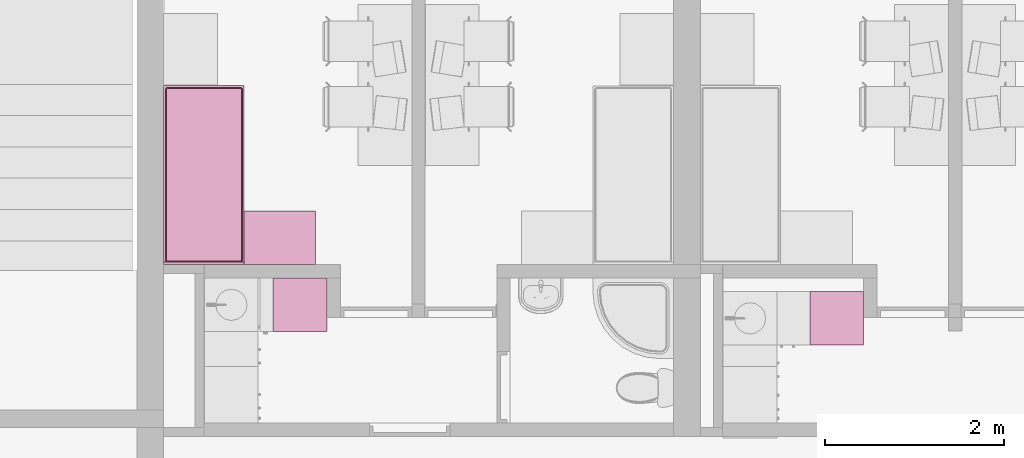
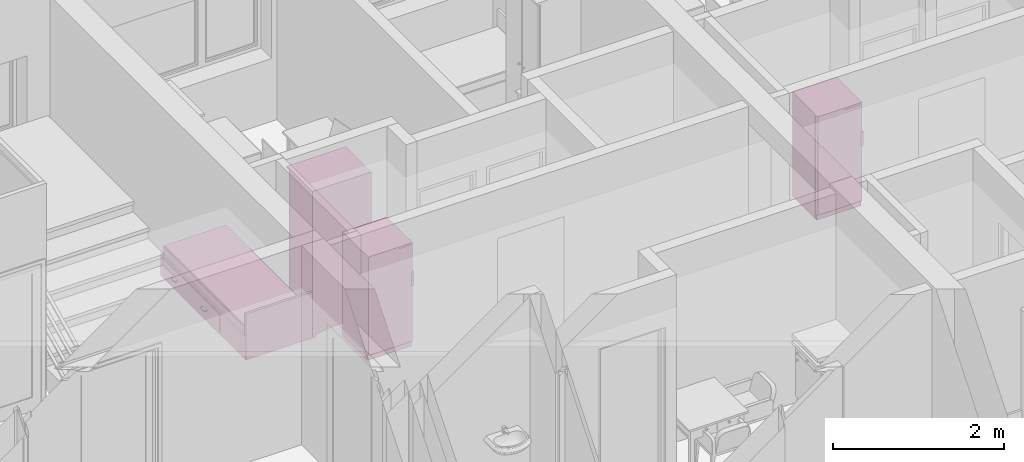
# One storey, part 127 of 165: 4 furnishings.
"""IFC2X3 building model written with IfcOpenShell, lengths in millimetres."""

import ifcopenshell
import ifcopenshell.guid

model = None  # the IFC model being written
_history = None  # IfcOwnerHistory: only IFC2X3 demands one
_inside = {}  # id of a spatial element -> (the spatial element, [elements in it])
_under = {}  # id of a project, library or spatial element -> (it, [spatial elements below it])
_declared = {}  # id of a project -> (the project, [libraries it declares])
_typed = {}  # id of a type object -> (the type object, [elements of that type])
_made_of = {}  # id of a material, layer set ... -> (it, [elements and type objects made of it])


def new_model(schema):
    """Start an empty IFC model of exactly this schema.

    Asked for "IFC4X3", IfcOpenShell would pick the latest addendum, in which some entities
    have other attributes; the version numbers below select the first issue.
    IFC2X3 requires an IfcOwnerHistory on every rooted entity: one is made here for all.
    """
    global model, _history
    if schema == "IFC4X3":
        model = ifcopenshell.file(schema_version=(4, 3, 0, 0))
    else:
        model = ifcopenshell.file(schema=schema)
    _inside.clear()
    _under.clear()
    _declared.clear()
    _typed.clear()
    _made_of.clear()
    _history = None
    if model.schema == "IFC2X3":
        org = make("IfcOrganization", Name="unknown")
        user = make(
            "IfcPersonAndOrganization",
            ThePerson=make("IfcPerson", FamilyName="unknown"),
            TheOrganization=org,
        )
        app = make(
            "IfcApplication",
            ApplicationDeveloper=org,
            Version="unknown",
            ApplicationFullName="unknown",
            ApplicationIdentifier="unknown",
        )
        _history = make(
            "IfcOwnerHistory",
            OwningUser=user,
            OwningApplication=app,
            ChangeAction="ADDED",
            CreationDate=0,
        )
    return model


def make(cls, **values):
    """One entity of the class cls with the attributes given. An attribute that is None is left unset."""
    return model.create_entity(
        cls, **{name: value for name, value in values.items() if value is not None}
    )


def entity(cls, *values):
    """Any entity or typed value of the class cls, its attributes in the order of the schema. None: left unset."""
    e = model.create_entity(cls)
    for i, value in enumerate(values):
        if value is not None:
            e[i] = value
    return e


def rooted(cls, **values):
    """An entity with a GlobalId (a new one), such as an element, a storey or a relation."""
    return make(cls, GlobalId=ifcopenshell.guid.new(), OwnerHistory=_history, **values)


def si_unit(unit_type, name, prefix=None):
    """IfcSIUnit, for example si_unit("LENGTHUNIT", "METRE", prefix="MILLI")."""
    return make("IfcSIUnit", UnitType=unit_type, Prefix=prefix, Name=name)


def converted_unit(unit_type, name, factor, base, dimensions=None, offset=None):
    """IfcConversionBasedUnit, such as the inch: factor (a typed value) times the base unit."""
    return make(
        "IfcConversionBasedUnit"
        if offset is None
        else "IfcConversionBasedUnitWithOffset",
        ConversionOffset=offset,
        Dimensions=None
        if dimensions is None
        else entity("IfcDimensionalExponents", *dimensions),
        UnitType=unit_type,
        Name=name,
        ConversionFactor=make(
            "IfcMeasureWithUnit", ValueComponent=factor, UnitComponent=base
        ),
    )


def money_unit(currency):
    """IfcMonetaryUnit."""
    return make("IfcMonetaryUnit", Currency=currency)


def assignment(units):
    """IfcUnitAssignment: the units of a project."""
    return None if units is None else make("IfcUnitAssignment", Units=units)


def point(xyz):
    """IfcCartesianPoint."""
    return None if xyz is None else make("IfcCartesianPoint", Coordinates=xyz)


def direction(xyz):
    """IfcDirection."""
    return None if xyz is None else make("IfcDirection", DirectionRatios=xyz)


def frame(location, z_axis=None, x_axis=None):
    """IfcAxis2Placement3D, a coordinate frame: its origin and axes. An axis left out is left unset."""
    return make(
        "IfcAxis2Placement3D",
        Location=point(location),
        Axis=direction(z_axis),
        RefDirection=direction(x_axis),
    )


def origin_with_axes():
    """The frame at (0, 0, 0) with the z axis (0, 0, 1) and the x axis (1, 0, 0) written out."""
    return frame((0.0, 0.0, 0.0), z_axis=(0.0, 0.0, 1.0), x_axis=(1.0, 0.0, 0.0))


def place(relative_to, where):
    """IfcLocalPlacement: puts the frame where relative to a parent placement (None: the world)."""
    return make(
        "IfcLocalPlacement", PlacementRelTo=relative_to, RelativePlacement=where
    )


def context(
    kind, dimensions, precision=None, world=None, true_north=None, identifier=None
):
    """IfcGeometricRepresentationContext, for example the 3D "Model" context."""
    return make(
        "IfcGeometricRepresentationContext",
        ContextIdentifier=identifier,
        ContextType=kind,
        CoordinateSpaceDimension=dimensions,
        Precision=precision,
        WorldCoordinateSystem=world,
        TrueNorth=true_north,
    )


def subcontext(parent, identifier, kind, view, scale=None):
    """IfcGeometricRepresentationSubContext, for example "Body" below "Model"."""
    return make(
        "IfcGeometricRepresentationSubContext",
        ContextIdentifier=identifier,
        ContextType=kind,
        ParentContext=parent,
        TargetScale=scale,
        TargetView=view,
    )


def project(units=None, contexts=None):
    """IfcProject with its units and contexts."""
    return rooted(
        "IfcProject",
        Name="project",
        RepresentationContexts=contexts,
        UnitsInContext=assignment(units),
    )


def spatial(cls, under=None, at=None, **own):
    """A site, building, storey or space (cls), placed at a placement, below another one or the project."""
    s = rooted(cls, ObjectPlacement=at, **own)
    if under is not None:
        _under.setdefault(under.id(), (under, []))[1].append(s)
    return s


def faces_of(points, faces, orient=None, outer=None):
    """IfcFace entities. A face is a list of loops; a loop is a list of indices into points, from 0.

    orient and outer hold one flag for each loop. By default every Orientation is true, the
    first loop of a face is its IfcFaceOuterBound and the others are IfcFaceBound.
    """
    made = []
    for i, loops in enumerate(faces):
        bounds = []
        for j, loop in enumerate(loops):
            is_outer = j == 0 if outer is None else outer[i][j]
            bounds.append(
                make(
                    "IfcFaceOuterBound" if is_outer else "IfcFaceBound",
                    Bound=make("IfcPolyLoop", Polygon=[points[k] for k in loop]),
                    Orientation=True if orient is None else orient[i][j],
                )
            )
        made.append(make("IfcFace", Bounds=bounds))
    return made


def open_shell(faces, orient=None, outer=None):
    """The faces of one IfcOpenShell. surface_model builds it on its shared points."""
    return ("IfcOpenShell", faces, orient, outer)


def faceted_brep(points, faces, orient=None, outer=None, voids=None):
    """IfcFacetedBrep: a solid bounded by flat faces; with voids (closed shells), ...WithVoids."""
    shared = [point(p) for p in points]
    hull = make("IfcClosedShell", CfsFaces=faces_of(shared, faces, orient, outer))
    if voids is None:
        return make("IfcFacetedBrep", Outer=hull)
    return make(
        "IfcFacetedBrepWithVoids",
        Outer=hull,
        Voids=[
            make(cls, CfsFaces=faces_of(shared, fs, o, b)) for cls, fs, o, b in voids
        ],
    )


def surface_model(cls, points, shells):
    """IfcFaceBasedSurfaceModel or IfcShellBasedSurfaceModel (cls): surfaces that need not close."""
    shared = [point(p) for p in points]
    made = [make(c, CfsFaces=faces_of(shared, fs, o, b)) for c, fs, o, b in shells]
    if cls == "IfcFaceBasedSurfaceModel":
        return make(cls, FbsmFaces=made)
    return make(cls, SbsmBoundary=made)


def shape(context_of_items, identifier, shape_type, items):
    """IfcShapeRepresentation: the items that make up one representation, for example the "Body"."""
    return make(
        "IfcShapeRepresentation",
        ContextOfItems=context_of_items,
        RepresentationIdentifier=identifier,
        RepresentationType=shape_type,
        Items=items,
    )


def source(mapping_origin, context_of_items, identifier, shape_type, items):
    """IfcRepresentationMap: a shape defined once, which mapped items show again and again."""
    return make(
        "IfcRepresentationMap",
        MappingOrigin=mapping_origin,
        MappedRepresentation=shape(context_of_items, identifier, shape_type, items),
    )


def transform(
    local_origin,
    x_axis=None,
    y_axis=None,
    z_axis=None,
    scale=None,
    scale2=None,
    scale3=None,
    uniform=True,
):
    """IfcCartesianTransformationOperator3D, or its non-uniform kind. x_axis, y_axis, z_axis: its Axis1, 2, 3."""
    if uniform:
        return make(
            "IfcCartesianTransformationOperator3D",
            Axis1=direction(x_axis),
            Axis2=direction(y_axis),
            LocalOrigin=point(local_origin),
            Scale=scale,
            Axis3=direction(z_axis),
        )
    return make(
        "IfcCartesianTransformationOperator3DnonUniform",
        Axis1=direction(x_axis),
        Axis2=direction(y_axis),
        LocalOrigin=point(local_origin),
        Scale=scale,
        Axis3=direction(z_axis),
        Scale2=scale2,
        Scale3=scale3,
    )


def mapped(mapping_source, mapping_target):
    """IfcMappedItem: shows the shape of a source again, moved by a transform."""
    return make(
        "IfcMappedItem", MappingSource=mapping_source, MappingTarget=mapping_target
    )


def material(Name=None, Category=None):
    """IfcMaterial."""
    return make("IfcMaterial", Name=Name, Category=Category)


def material_list(materials):
    """IfcMaterialList."""
    return make("IfcMaterialList", Materials=materials)


def made_of(thing, what):
    """Note that an element or type object is made of a material, layer set ...; save() writes the relation."""
    if what is not None:
        _made_of.setdefault(what.id(), (what, []))[1].append(thing)
    return thing


def type_object(cls, material=None, **own):
    """A type object (cls), such as IfcWallType, which elements share."""
    return made_of(rooted(cls, **own), material)


def element(
    cls,
    number,
    at=None,
    inside=None,
    cuts=None,
    type_object=None,
    material=None,
    context=None,
    identifier="Body",
    shape_type=None,
    held_by="IfcProductDefinitionShape",
    body=None,
    shapes=None,
    **own,
):
    """One element of the class cls, such as IfcWall. Its Tag is "e" and its number.

    at: its placement. inside: the storey or other place that contains it. cuts: it is an
    opening in that element (IfcRelVoidsElement). A single representation is given by context,
    identifier, shape_type and body (its items); several are given by shapes. held_by: the class
    of the entity that holds the representations. save() writes the other relations.
    """
    e = rooted(cls, Tag="e%d" % number, ObjectPlacement=at, **own)
    if body is not None:
        shapes = [shape(context, identifier, shape_type, body)]
    if shapes is not None:
        e.Representation = make(held_by, Representations=shapes)
    if inside is not None:
        _inside.setdefault(inside.id(), (inside, []))[1].append(e)
    if cuts is not None:
        rooted(
            "IfcRelVoidsElement", RelatingBuildingElement=cuts, RelatedOpeningElement=e
        )
    if type_object is not None:
        _typed.setdefault(type_object.id(), (type_object, []))[1].append(e)
    return made_of(e, material)


def aggregate(whole, parts):
    """IfcRelAggregates: a whole, such as a stair, and the parts it consists of."""
    return rooted("IfcRelAggregates", RelatingObject=whole, RelatedObjects=parts)


def save(model, path):
    """Write the relations noted so far, then the file.

    IfcRelAggregates (storeys below a building ...), IfcRelContainedInSpatialStructure (elements
    in a storey), IfcRelDefinesByType, IfcRelAssociatesMaterial and IfcRelDeclares: one each for
    every whole, place, type object, material and project.
    """
    for whole, parts in _under.values():
        aggregate(whole, parts)
    for where, things in _inside.values():
        rooted(
            "IfcRelContainedInSpatialStructure",
            RelatedElements=things,
            RelatingStructure=where,
        )
    for kind, things in _typed.values():
        rooted("IfcRelDefinesByType", RelatedObjects=things, RelatingType=kind)
    for what, things in _made_of.values():
        rooted("IfcRelAssociatesMaterial", RelatedObjects=things, RelatingMaterial=what)
    for by, libraries in _declared.values():
        rooted("IfcRelDeclares", RelatingContext=by, RelatedDefinitions=libraries)
    model.write(path)


model = new_model("IFC2X3")

# Units and contexts
model_context = context("Model", 3, precision=1e-05, world=origin_with_axes(), true_north=direction((0.0, 1.0)))
body_context = subcontext(model_context, "Body", "Model", "MODEL_VIEW")
ifc_project = project(units=[si_unit("LENGTHUNIT", "METRE", prefix="MILLI"), si_unit("AREAUNIT", "SQUARE_METRE"), si_unit("VOLUMEUNIT", "CUBIC_METRE"), converted_unit("PLANEANGLEUNIT", "DEGREE", entity("IfcPlaneAngleMeasure", 0.0174532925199), si_unit("PLANEANGLEUNIT", "RADIAN"), dimensions=[0, 0, 0, 0, 0, 0, 0]), si_unit("SOLIDANGLEUNIT", "STERADIAN"), money_unit("USD"), converted_unit("TIMEUNIT", "Year", entity("IfcTimeMeasure", 31556926.0), si_unit("TIMEUNIT", "SECOND"), dimensions=[0, 0, 0, 0, 0, 0, 0]), si_unit("MASSUNIT", "GRAM"), si_unit("THERMODYNAMICTEMPERATUREUNIT", "DEGREE_CELSIUS"), si_unit("LUMINOUSINTENSITYUNIT", "LUMEN")], contexts=[model_context])

# Site, building, storey
site_placement = place(None, origin_with_axes())
site = spatial("IfcSite", under=ifc_project, at=site_placement, Name="Site", CompositionType="ELEMENT")
building_placement = place(site_placement, origin_with_axes())
building = spatial("IfcBuilding", under=site, at=building_placement, Name="Building", CompositionType="ELEMENT")
storey_placement = place(building_placement, frame((0.0, 0.0, 6300.0), z_axis=(0.0, 0.0, 1.0), x_axis=(1.0, 0.0, 0.0)))
storey = spatial("IfcBuildingStorey", under=building, at=storey_placement, Name="4KORRUS", CompositionType="ELEMENT", Elevation=6300.0)

# Furnishings
ifc_material = material(Name="Background")
ifc_material_list = material_list([ifc_material])
furnishing_element_type_1 = type_object("IfcFurnishingElementType", Name="Bed 19")
shared_shape_1 = source(origin_with_axes(), body_context, "Body", "Brep", [
    faceted_brep([(900.0, 1970.0, 0.0), (0.0, 1970.0, 0.0), (0.0, 2000.0, 0.0), (900.0, 2000.0, 0.0), (900.0, 1970.0, 660.0), (0.0, 1970.0, 660.0), (0.0, 2000.0, 660.0), (900.0, 2000.0, 660.0)], [[[0, 1, 2, 3]], [[1, 0, 4, 5]], [[2, 1, 5, 6]], [[3, 2, 6, 7]], [[0, 3, 7, 4]], [[5, 4, 7, 6]]]),
    faceted_brep([(900.0, 0.0, 0.0), (0.0, 0.0, 0.0), (0.0, 1970.0, 0.0), (900.0, 1970.0, 0.0), (900.0, 0.0, 320.0), (0.0, 0.0, 320.0), (0.0, 1970.0, 320.0), (900.0, 1970.0, 320.0)], [[[0, 1, 2, 3]], [[1, 0, 4, 5]], [[2, 1, 5, 6]], [[3, 2, 6, 7]], [[0, 3, 7, 4]], [[5, 4, 7, 6]]]),
    faceted_brep([(905.0, 10.0, 30.0), (900.0, 10.0, 30.0), (900.0, 695.0, 30.0), (905.0, 695.0, 30.0), (905.0, 10.0, 290.0), (900.0, 10.0, 290.0), (900.0, 695.0, 290.0), (905.0, 695.0, 290.0)], [[[0, 1, 2, 3]], [[1, 0, 4, 5]], [[2, 1, 5, 6]], [[3, 2, 6, 7]], [[0, 3, 7, 4]], [[5, 4, 7, 6]]]),
    faceted_brep([(935.0, 307.5, 150.0), (905.0, 307.5, 150.0), (905.0, 397.5, 150.0), (935.0, 397.5, 150.0), (935.0, 307.5, 170.0), (905.0, 307.5, 170.0), (905.0, 397.5, 170.0), (935.0, 397.5, 170.0)], [[[0, 1, 2, 3]], [[1, 0, 4, 5]], [[2, 1, 5, 6]], [[3, 2, 6, 7]], [[0, 3, 7, 4]], [[5, 4, 7, 6]]]),
    faceted_brep([(905.0, 705.0, 30.0), (900.0, 705.0, 30.0), (900.0, 1390.0, 30.0), (905.0, 1390.0, 30.0), (905.0, 705.0, 290.0), (900.0, 705.0, 290.0), (900.0, 1390.0, 290.0), (905.0, 1390.0, 290.0)], [[[0, 1, 2, 3]], [[1, 0, 4, 5]], [[2, 1, 5, 6]], [[3, 2, 6, 7]], [[0, 3, 7, 4]], [[5, 4, 7, 6]]]),
    faceted_brep([(935.0, 1002.5, 150.0), (905.0, 1002.5, 150.0), (905.0, 1092.5, 150.0), (935.0, 1092.5, 150.0), (935.0, 1002.5, 170.0), (905.0, 1002.5, 170.0), (905.0, 1092.5, 170.0), (935.0, 1092.5, 170.0)], [[[0, 1, 2, 3]], [[1, 0, 4, 5]], [[2, 1, 5, 6]], [[3, 2, 6, 7]], [[0, 3, 7, 4]], [[5, 4, 7, 6]]]),
    faceted_brep([(20.0, 40.0, 350.0), (20.0, 1950.0, 350.0), (21.522, 1957.654, 350.0), (25.858, 1964.142, 350.0), (32.346, 1968.478, 350.0), (40.0, 1970.0, 350.0), (860.0, 1970.0, 350.0), (867.654, 1968.478, 350.0), (874.142, 1964.142, 350.0), (878.478, 1957.654, 350.0), (880.0, 1950.0, 350.0), (880.0, 40.0, 350.0), (878.478, 32.346, 350.0), (874.142, 25.858, 350.0), (867.654, 21.522, 350.0), (860.0, 20.0, 350.0), (40.0, 20.0, 350.0), (32.346, 21.522, 350.0), (25.858, 25.858, 350.0), (21.522, 32.346, 350.0), (20.0, 40.0, 420.0), (20.0, 1950.0, 420.0), (21.522, 1957.654, 420.0), (25.858, 1964.142, 420.0), (32.346, 1968.478, 420.0), (40.0, 1970.0, 420.0), (860.0, 1970.0, 420.0), (867.654, 1968.478, 420.0), (874.142, 1964.142, 420.0), (878.478, 1957.654, 420.0), (880.0, 1950.0, 420.0), (880.0, 40.0, 420.0), (878.478, 32.346, 420.0), (874.142, 25.858, 420.0), (867.654, 21.522, 420.0), (860.0, 20.0, 420.0), (40.0, 20.0, 420.0), (32.346, 21.522, 420.0), (25.858, 25.858, 420.0), (21.522, 32.346, 420.0), (21.522, 40.15, 427.654), (21.522, 1949.85, 427.654), (22.956, 1957.06, 427.654), (26.955, 1963.045, 427.654), (32.94, 1967.044, 427.654), (40.15, 1968.478, 427.654), (859.85, 1968.478, 427.654), (867.06, 1967.044, 427.654), (873.045, 1963.045, 427.654), (877.044, 1957.06, 427.654), (878.478, 1949.85, 427.654), (878.478, 40.15, 427.654), (877.044, 32.94, 427.654), (873.045, 26.955, 427.654), (867.06, 22.956, 427.654), (859.85, 21.522, 427.654), (40.15, 21.522, 427.654), (32.94, 22.956, 427.654), (26.955, 26.955, 427.654), (22.956, 32.94, 427.654), (32.346, 41.216, 438.478), (32.346, 1948.784, 438.478), (33.152, 1952.836, 438.478), (34.759, 1955.241, 438.478), (37.164, 1956.848, 438.478), (41.216, 1957.654, 438.478), (858.784, 1957.654, 438.478), (862.836, 1956.848, 438.478), (865.241, 1955.241, 438.478), (866.848, 1952.836, 438.478), (867.654, 1948.784, 438.478), (867.654, 41.216, 438.478), (866.848, 37.164, 438.478), (865.241, 34.759, 438.478), (862.836, 33.152, 438.478), (858.784, 32.346, 438.478), (41.216, 32.346, 438.478), (37.164, 33.152, 438.478), (34.759, 34.759, 438.478), (33.152, 37.164, 438.478), (40.0, 41.97, 440.0), (40.0, 1948.03, 440.0), (40.327, 1949.673, 440.0), (40.0, 1950.0, 439.924), (41.97, 1950.0, 440.0), (858.03, 1950.0, 440.0), (859.673, 1949.673, 440.0), (860.0, 1950.0, 439.924), (860.0, 1948.03, 440.0), (860.0, 41.97, 440.0), (859.673, 40.327, 440.0), (860.0, 40.0, 439.924), (858.03, 40.0, 440.0), (41.97, 40.0, 440.0), (40.327, 40.327, 440.0), (40.0, 40.0, 439.924)], [[[0, 1, 2, 3, 4, 5, 6, 7, 8, 9, 10, 11, 12, 13, 14, 15, 16, 17, 18, 19]], [[1, 0, 20, 21]], [[2, 1, 21, 22]], [[3, 2, 22, 23]], [[4, 3, 23, 24]], [[5, 4, 24, 25]], [[6, 5, 25, 26]], [[7, 6, 26, 27]], [[8, 7, 27, 28]], [[9, 8, 28, 29]], [[10, 9, 29, 30]], [[11, 10, 30, 31]], [[12, 11, 31, 32]], [[13, 12, 32, 33]], [[14, 13, 33, 34]], [[15, 14, 34, 35]], [[16, 15, 35, 36]], [[17, 16, 36, 37]], [[18, 17, 37, 38]], [[19, 18, 38, 39]], [[0, 19, 39, 20]], [[21, 20, 40, 41]], [[22, 21, 41, 42]], [[23, 22, 42, 43]], [[24, 23, 43, 44]], [[25, 24, 44, 45]], [[26, 25, 45, 46]], [[27, 26, 46, 47]], [[28, 27, 47, 48]], [[29, 28, 48, 49]], [[30, 29, 49, 50]], [[31, 30, 50, 51]], [[32, 31, 51, 52]], [[33, 32, 52, 53]], [[34, 33, 53, 54]], [[35, 34, 54, 55]], [[36, 35, 55, 56]], [[37, 36, 56, 57]], [[38, 37, 57, 58]], [[39, 38, 58, 59]], [[20, 39, 59, 40]], [[41, 40, 60, 61]], [[42, 41, 61, 62]], [[43, 42, 62, 63]], [[44, 43, 63, 64]], [[45, 44, 64, 65]], [[46, 45, 65, 66]], [[47, 46, 66, 67]], [[48, 47, 67, 68]], [[49, 48, 68, 69]], [[50, 49, 69, 70]], [[51, 50, 70, 71]], [[52, 51, 71, 72]], [[53, 52, 72, 73]], [[54, 53, 73, 74]], [[55, 54, 74, 75]], [[56, 55, 75, 76]], [[57, 56, 76, 77]], [[58, 57, 77, 78]], [[59, 58, 78, 79]], [[40, 59, 79, 60]], [[61, 60, 80, 81]], [[62, 61, 81, 82, 83]], [[63, 62, 83]], [[64, 63, 83]], [[65, 64, 83, 82, 84]], [[66, 65, 84, 85]], [[67, 66, 85, 86, 87]], [[68, 67, 87]], [[69, 68, 87]], [[70, 69, 87, 86, 88]], [[71, 70, 88, 89]], [[72, 71, 89, 90, 91]], [[73, 72, 91]], [[74, 73, 91]], [[75, 74, 91, 90, 92]], [[76, 75, 92, 93]], [[77, 76, 93, 94, 95]], [[78, 77, 95]], [[79, 78, 95]], [[60, 79, 95, 94, 80]], [[81, 80, 94, 93, 92, 90, 89, 88, 86, 85, 84, 82]]]),
    faceted_brep([(20.0, 40.0, 350.0), (21.522, 32.346, 350.0), (25.858, 25.858, 350.0), (32.346, 21.522, 350.0), (40.0, 20.0, 350.0), (860.0, 20.0, 350.0), (867.654, 21.522, 350.0), (874.142, 25.858, 350.0), (878.478, 32.346, 350.0), (880.0, 40.0, 350.0), (880.0, 1950.0, 350.0), (878.478, 1957.654, 350.0), (874.142, 1964.142, 350.0), (867.654, 1968.478, 350.0), (860.0, 1970.0, 350.0), (40.0, 1970.0, 350.0), (32.346, 1968.478, 350.0), (25.858, 1964.142, 350.0), (21.522, 1957.654, 350.0), (20.0, 1950.0, 350.0), (20.0, 40.0, 320.0), (21.522, 32.346, 320.0), (25.858, 25.858, 320.0), (32.346, 21.522, 320.0), (40.0, 20.0, 320.0), (860.0, 20.0, 320.0), (867.654, 21.522, 320.0), (874.142, 25.858, 320.0), (878.478, 32.346, 320.0), (880.0, 40.0, 320.0), (880.0, 1950.0, 320.0), (878.478, 1957.654, 320.0), (874.142, 1964.142, 320.0), (867.654, 1968.478, 320.0), (860.0, 1970.0, 320.0), (40.0, 1970.0, 320.0), (32.346, 1968.478, 320.0), (25.858, 1964.142, 320.0), (21.522, 1957.654, 320.0), (20.0, 1950.0, 320.0)], [[[0, 1, 2, 3, 4, 5, 6, 7, 8, 9, 10, 11, 12, 13, 14, 15, 16, 17, 18, 19]], [[0, 20, 21, 1]], [[1, 21, 22, 2]], [[2, 22, 23, 3]], [[3, 23, 24, 4]], [[4, 24, 25, 5]], [[5, 25, 26, 6]], [[6, 26, 27, 7]], [[7, 27, 28, 8]], [[8, 28, 29, 9]], [[9, 29, 30, 10]], [[10, 30, 31, 11]], [[11, 31, 32, 12]], [[12, 32, 33, 13]], [[13, 33, 34, 14]], [[14, 34, 35, 15]], [[15, 35, 36, 16]], [[16, 36, 37, 17]], [[17, 37, 38, 18]], [[18, 38, 39, 19]], [[19, 39, 20, 0]], [[20, 39, 38, 37, 36, 35, 34, 33, 32, 31, 30, 29, 28, 27, 26, 25, 24, 23, 22, 21]]]),
])
furnishing_1_placement = place(storey_placement, frame((-5090.29670331, -7216.37850445, 0.0), z_axis=(0.0, 0.0, 1.0), x_axis=(-1.0, 0.0, 0.0)))
element("IfcFurnishingElement", 1, at=furnishing_1_placement, inside=storey, type_object=furnishing_element_type_1, material=ifc_material_list, Name="FU - 013", context=body_context, shape_type="MappedRepresentation", body=[
    mapped(shared_shape_1, transform((0.0, 0.0, 0.0))),
])
furnishing_element_type_2 = type_object("IfcFurnishingElementType", Name="Cupboard 19")
shared_shape_2 = source(origin_with_axes(), body_context, "Body", "Brep", [
    faceted_brep([(780.0, 600.0, 120.0), (780.0, 600.0, 2050.0), (780.0, 580.0, 2050.0), (780.0, 580.0, 120.0), (20.0, 600.0, 120.0), (20.0, 600.0, 2050.0), (20.0, 580.0, 2050.0), (20.0, 580.0, 120.0)], [[[0, 1, 2, 3]], [[4, 5, 1, 0]], [[1, 5, 6, 2]], [[3, 2, 6, 7]], [[0, 3, 7, 4]], [[7, 6, 5, 4]]]),
    faceted_brep([(0.0, 50.0, 100.0), (0.0, 600.0, 100.0), (20.0, 600.0, 100.0), (20.0, 50.0, 100.0), (0.0, 50.0, 2070.0), (0.0, 600.0, 2070.0), (20.0, 600.0, 2070.0), (20.0, 50.0, 2070.0)], [[[0, 1, 2, 3]], [[0, 4, 5, 1]], [[1, 5, 6, 2]], [[2, 6, 7, 3]], [[3, 7, 4, 0]], [[7, 6, 5, 4]]]),
    faceted_brep([(780.0, 50.0, 100.0), (780.0, 600.0, 100.0), (800.0, 600.0, 100.0), (800.0, 50.0, 100.0), (780.0, 50.0, 2070.0), (780.0, 600.0, 2070.0), (800.0, 600.0, 2070.0), (800.0, 50.0, 2070.0)], [[[0, 1, 2, 3]], [[0, 4, 5, 1]], [[1, 5, 6, 2]], [[2, 6, 7, 3]], [[3, 7, 4, 0]], [[7, 6, 5, 4]]]),
    faceted_brep([(20.0, 50.0, 100.0), (20.0, 600.0, 100.0), (780.0, 600.0, 100.0), (780.0, 50.0, 100.0), (20.0, 50.0, 120.0), (20.0, 600.0, 120.0), (780.0, 600.0, 120.0), (780.0, 50.0, 120.0)], [[[0, 1, 2, 3]], [[0, 4, 5, 1]], [[1, 5, 6, 2]], [[2, 6, 7, 3]], [[3, 7, 4, 0]], [[7, 6, 5, 4]]]),
    faceted_brep([(20.0, 50.0, 2050.0), (20.0, 600.0, 2050.0), (780.0, 600.0, 2050.0), (780.0, 50.0, 2050.0), (20.0, 50.0, 2070.0), (20.0, 600.0, 2070.0), (780.0, 600.0, 2070.0), (780.0, 50.0, 2070.0)], [[[0, 1, 2, 3]], [[0, 4, 5, 1]], [[1, 5, 6, 2]], [[2, 6, 7, 3]], [[3, 7, 4, 0]], [[7, 6, 5, 4]]]),
    faceted_brep([(0.0, 600.0, 2070.0), (0.0, 0.0, 2070.0), (0.0, 0.0, 2100.0), (0.0, 600.0, 2100.0), (800.0, 600.0, 2070.0), (800.0, 0.0, 2070.0), (800.0, 0.0, 2100.0), (800.0, 600.0, 2100.0)], [[[0, 1, 2, 3]], [[0, 4, 5, 1]], [[1, 5, 6, 2]], [[3, 2, 6, 7]], [[4, 0, 3, 7]], [[5, 4, 7, 6]]]),
    faceted_brep([(760.0, 590.0, 25.0), (760.0, 570.0, 25.0), (640.962, 570.0, 45.8), (640.962, 590.0, 45.8), (760.0, 590.0, 100.0), (760.0, 570.0, 100.0), (40.0, 570.0, 100.0), (40.0, 570.0, 25.0), (159.038, 570.0, 45.8), (279.23, 570.0, 58.32), (400.0, 570.0, 62.5), (520.77, 570.0, 58.32), (520.77, 590.0, 58.32), (400.0, 590.0, 62.5), (279.23, 590.0, 58.32), (159.038, 590.0, 45.8), (40.0, 590.0, 25.0), (40.0, 590.0, 100.0)], [[[0, 1, 2, 3]], [[4, 5, 1, 0]], [[1, 5, 6, 7, 8, 9, 10, 11, 2]], [[3, 2, 11, 12]], [[0, 3, 12, 13, 14, 15, 16, 17, 4]], [[17, 6, 5, 4]], [[16, 7, 6, 17]], [[15, 8, 7, 16]], [[14, 9, 8, 15]], [[13, 10, 9, 14]], [[12, 11, 10, 13]]]),
    faceted_brep([(760.0, 80.0, 25.0), (760.0, 60.0, 25.0), (640.962, 60.0, 45.8), (640.962, 80.0, 45.8), (760.0, 80.0, 100.0), (760.0, 60.0, 100.0), (40.0, 60.0, 100.0), (40.0, 60.0, 25.0), (159.038, 60.0, 45.8), (279.23, 60.0, 58.32), (400.0, 60.0, 62.5), (520.77, 60.0, 58.32), (520.77, 80.0, 58.32), (400.0, 80.0, 62.5), (279.23, 80.0, 58.32), (159.038, 80.0, 45.8), (40.0, 80.0, 25.0), (40.0, 80.0, 100.0)], [[[0, 1, 2, 3]], [[4, 5, 1, 0]], [[1, 5, 6, 7, 8, 9, 10, 11, 2]], [[3, 2, 11, 12]], [[0, 3, 12, 13, 14, 15, 16, 17, 4]], [[17, 6, 5, 4]], [[16, 7, 6, 17]], [[15, 8, 7, 16]], [[14, 9, 8, 15]], [[13, 10, 9, 14]], [[12, 11, 10, 13]]]),
    faceted_brep([(790.0, 90.0, 25.0), (770.0, 90.0, 25.0), (770.0, 141.266, 38.072), (790.0, 141.266, 38.072), (790.0, 90.0, 100.0), (770.0, 90.0, 100.0), (770.0, 560.0, 100.0), (770.0, 560.0, 25.0), (770.0, 508.734, 38.072), (770.0, 456.752, 47.92), (770.0, 404.257, 54.508), (770.0, 351.453, 57.808), (770.0, 298.547, 57.808), (770.0, 245.743, 54.508), (770.0, 193.248, 47.92), (790.0, 193.248, 47.92), (790.0, 245.743, 54.508), (790.0, 298.547, 57.808), (790.0, 351.453, 57.808), (790.0, 404.257, 54.508), (790.0, 456.752, 47.92), (790.0, 508.734, 38.072), (790.0, 560.0, 25.0), (790.0, 560.0, 100.0)], [[[0, 1, 2, 3]], [[4, 5, 1, 0]], [[1, 5, 6, 7, 8, 9, 10, 11, 12, 13, 14, 2]], [[3, 2, 14, 15]], [[0, 3, 15, 16, 17, 18, 19, 20, 21, 22, 23, 4]], [[23, 6, 5, 4]], [[22, 7, 6, 23]], [[21, 8, 7, 22]], [[20, 9, 8, 21]], [[19, 10, 9, 20]], [[18, 11, 10, 19]], [[17, 12, 11, 18]], [[16, 13, 12, 17]], [[15, 14, 13, 16]]]),
    faceted_brep([(30.0, 90.0, 25.0), (10.0, 90.0, 25.0), (10.0, 141.266, 38.072), (30.0, 141.266, 38.072), (30.0, 90.0, 100.0), (10.0, 90.0, 100.0), (10.0, 560.0, 100.0), (10.0, 560.0, 25.0), (10.0, 508.734, 38.072), (10.0, 456.752, 47.92), (10.0, 404.257, 54.508), (10.0, 351.453, 57.808), (10.0, 298.547, 57.808), (10.0, 245.743, 54.508), (10.0, 193.248, 47.92), (30.0, 193.248, 47.92), (30.0, 245.743, 54.508), (30.0, 298.547, 57.808), (30.0, 351.453, 57.808), (30.0, 404.257, 54.508), (30.0, 456.752, 47.92), (30.0, 508.734, 38.072), (30.0, 560.0, 25.0), (30.0, 560.0, 100.0)], [[[0, 1, 2, 3]], [[4, 5, 1, 0]], [[1, 5, 6, 7, 8, 9, 10, 11, 12, 13, 14, 2]], [[3, 2, 14, 15]], [[0, 3, 15, 16, 17, 18, 19, 20, 21, 22, 23, 4]], [[23, 6, 5, 4]], [[22, 7, 6, 23]], [[21, 8, 7, 22]], [[20, 9, 8, 21]], [[19, 10, 9, 20]], [[18, 11, 10, 19]], [[17, 12, 11, 18]], [[16, 13, 12, 17]], [[15, 14, 13, 16]]]),
    faceted_brep([(760.0, 560.0, 0.0), (760.0, 560.0, 100.0), (760.0, 600.0, 100.0), (760.0, 600.0, 0.0), (800.0, 560.0, 0.0), (800.0, 560.0, 100.0), (800.0, 600.0, 100.0), (800.0, 600.0, 0.0)], [[[0, 1, 2, 3]], [[4, 5, 1, 0]], [[1, 5, 6, 2]], [[3, 2, 6, 7]], [[0, 3, 7, 4]], [[7, 6, 5, 4]]]),
    faceted_brep([(0.0, 560.0, 0.0), (0.0, 560.0, 100.0), (0.0, 600.0, 100.0), (0.0, 600.0, 0.0), (40.0, 560.0, 0.0), (40.0, 560.0, 100.0), (40.0, 600.0, 100.0), (40.0, 600.0, 0.0)], [[[0, 1, 2, 3]], [[4, 5, 1, 0]], [[1, 5, 6, 2]], [[3, 2, 6, 7]], [[0, 3, 7, 4]], [[7, 6, 5, 4]]]),
    faceted_brep([(760.0, 50.0, 0.0), (760.0, 50.0, 100.0), (760.0, 90.0, 100.0), (760.0, 90.0, 0.0), (800.0, 50.0, 0.0), (800.0, 50.0, 100.0), (800.0, 90.0, 100.0), (800.0, 90.0, 0.0)], [[[0, 1, 2, 3]], [[4, 5, 1, 0]], [[1, 5, 6, 2]], [[3, 2, 6, 7]], [[0, 3, 7, 4]], [[7, 6, 5, 4]]]),
    faceted_brep([(0.0, 50.0, 0.0), (0.0, 50.0, 100.0), (0.0, 90.0, 100.0), (0.0, 90.0, 0.0), (40.0, 50.0, 0.0), (40.0, 50.0, 100.0), (40.0, 90.0, 100.0), (40.0, 90.0, 0.0)], [[[0, 1, 2, 3]], [[4, 5, 1, 0]], [[1, 5, 6, 2]], [[3, 2, 6, 7]], [[0, 3, 7, 4]], [[7, 6, 5, 4]]]),
    faceted_brep([(780.0, 580.0, 587.5), (780.0, 580.0, 607.5), (780.0, 50.0, 607.5), (780.0, 50.0, 587.5), (20.0, 580.0, 587.5), (20.0, 580.0, 607.5), (20.0, 50.0, 607.5), (20.0, 50.0, 587.5)], [[[0, 1, 2, 3]], [[4, 5, 1, 0]], [[1, 5, 6, 2]], [[3, 2, 6, 7]], [[0, 3, 7, 4]], [[7, 6, 5, 4]]]),
    faceted_brep([(780.0, 580.0, 1075.0), (780.0, 580.0, 1095.0), (780.0, 50.0, 1095.0), (780.0, 50.0, 1075.0), (20.0, 580.0, 1075.0), (20.0, 580.0, 1095.0), (20.0, 50.0, 1095.0), (20.0, 50.0, 1075.0)], [[[0, 1, 2, 3]], [[4, 5, 1, 0]], [[1, 5, 6, 2]], [[3, 2, 6, 7]], [[0, 3, 7, 4]], [[7, 6, 5, 4]]]),
    faceted_brep([(780.0, 580.0, 1562.5), (780.0, 580.0, 1582.5), (780.0, 50.0, 1582.5), (780.0, 50.0, 1562.5), (20.0, 580.0, 1562.5), (20.0, 580.0, 1582.5), (20.0, 50.0, 1582.5), (20.0, 50.0, 1562.5)], [[[0, 1, 2, 3]], [[4, 5, 1, 0]], [[1, 5, 6, 2]], [[3, 2, 6, 7]], [[0, 3, 7, 4]], [[7, 6, 5, 4]]]),
    faceted_brep([(789.5, 50.0, 110.5), (400.5, 50.0, 110.5), (400.5, 50.0, 2059.5), (789.5, 50.0, 2059.5), (789.5, 40.0, 110.5), (400.5, 40.0, 110.5), (400.5, 40.0, 2059.5), (789.5, 40.0, 2059.5), (779.5, 30.0, 120.5), (410.5, 30.0, 120.5), (410.5, 30.0, 2049.5), (779.5, 30.0, 2049.5)], [[[0, 1, 2, 3]], [[0, 4, 5, 1]], [[1, 5, 6, 2]], [[2, 6, 7, 3]], [[3, 7, 4, 0]], [[4, 8, 9, 5]], [[5, 9, 10, 6]], [[6, 10, 11, 7]], [[7, 11, 8, 4]], [[10, 9, 8, 11]]]),
    faceted_brep([(399.5, 50.0, 110.5), (10.5, 50.0, 110.5), (10.5, 50.0, 2059.5), (399.5, 50.0, 2059.5), (399.5, 40.0, 110.5), (10.5, 40.0, 110.5), (10.5, 40.0, 2059.5), (399.5, 40.0, 2059.5), (389.5, 30.0, 120.5), (20.5, 30.0, 120.5), (20.5, 30.0, 2049.5), (389.5, 30.0, 2049.5)], [[[0, 1, 2, 3]], [[0, 4, 5, 1]], [[1, 5, 6, 2]], [[2, 6, 7, 3]], [[3, 7, 4, 0]], [[4, 8, 9, 5]], [[5, 9, 10, 6]], [[6, 10, 11, 7]], [[7, 11, 8, 4]], [[10, 9, 8, 11]]]),
    faceted_brep([(339.608, 30.0, 954.0), (338.0, 30.0, 960.0), (339.608, 30.0, 966.0), (344.0, 30.0, 970.392), (350.0, 30.0, 972.0), (356.0, 30.0, 970.392), (360.392, 30.0, 966.0), (362.0, 30.0, 960.0), (360.392, 30.0, 954.0), (356.0, 30.0, 949.608), (350.0, 30.0, 948.0), (344.0, 30.0, 949.608), (339.608, 5.0, 954.0), (338.0, 5.0, 960.0), (339.608, 5.0, 966.0), (344.0, 5.0, 970.392), (350.0, 5.0, 972.0), (356.0, 5.0, 970.392), (360.392, 5.0, 966.0), (362.0, 5.0, 960.0), (360.392, 5.0, 954.0), (356.0, 5.0, 949.608), (350.0, 5.0, 948.0), (344.0, 5.0, 949.608)], [[[0, 1, 2, 3, 4, 5, 6, 7, 8, 9, 10, 11]], [[0, 12, 13, 1]], [[1, 13, 14, 2]], [[2, 14, 15, 3]], [[3, 15, 16, 4]], [[4, 16, 17, 5]], [[5, 17, 18, 6]], [[6, 18, 19, 7]], [[7, 19, 20, 8]], [[8, 20, 21, 9]], [[9, 21, 22, 10]], [[10, 22, 23, 11]], [[11, 23, 12, 0]], [[12, 23, 22, 21, 20, 19, 18, 17, 16, 15, 14, 13]]]),
    faceted_brep([(460.392, 30.0, 954.0), (456.0, 30.0, 949.608), (450.0, 30.0, 948.0), (444.0, 30.0, 949.608), (439.608, 30.0, 954.0), (438.0, 30.0, 960.0), (439.608, 30.0, 966.0), (444.0, 30.0, 970.392), (450.0, 30.0, 972.0), (456.0, 30.0, 970.392), (460.392, 30.0, 966.0), (462.0, 30.0, 960.0), (460.392, 5.0, 954.0), (456.0, 5.0, 949.608), (450.0, 5.0, 948.0), (444.0, 5.0, 949.608), (439.608, 5.0, 954.0), (438.0, 5.0, 960.0), (439.608, 5.0, 966.0), (444.0, 5.0, 970.392), (450.0, 5.0, 972.0), (456.0, 5.0, 970.392), (460.392, 5.0, 966.0), (462.0, 5.0, 960.0)], [[[0, 1, 2, 3, 4, 5, 6, 7, 8, 9, 10, 11]], [[1, 0, 12, 13]], [[2, 1, 13, 14]], [[3, 2, 14, 15]], [[4, 3, 15, 16]], [[5, 4, 16, 17]], [[6, 5, 17, 18]], [[7, 6, 18, 19]], [[8, 7, 19, 20]], [[9, 8, 20, 21]], [[10, 9, 21, 22]], [[11, 10, 22, 23]], [[0, 11, 23, 12]], [[12, 23, 22, 21, 20, 19, 18, 17, 16, 15, 14, 13]]]),
])
furnishing_2_placement = place(storey_placement, frame((-4290.29670331, -8616.37850445, 0.0), z_axis=(0.0, 0.0, 1.0), x_axis=(-1.0, 0.0, 0.0)))
element("IfcFurnishingElement", 2, at=furnishing_2_placement, inside=storey, type_object=furnishing_element_type_2, material=ifc_material_list, Name="FU - 014", context=body_context, shape_type="MappedRepresentation", body=[
    mapped(shared_shape_2, transform((0.0, 0.0, 0.0))),
])
furnishing_element_type_3 = type_object("IfcFurnishingElementType", Name="Refrigerator 19")
shared_shape_3 = source(origin_with_axes(), body_context, "Body", "SurfaceModel", [
    faceted_brep([(0.0, 0.0, 1475.0), (600.0, 0.0, 1475.0), (600.0, 0.0, 1500.0), (0.0, 0.0, 1500.0), (0.0, 600.0, 1475.0), (600.0, 600.0, 1475.0), (600.0, 600.0, 1500.0), (0.0, 600.0, 1500.0)], [[[0, 1, 2, 3]], [[0, 4, 5, 1]], [[1, 5, 6, 2]], [[3, 2, 6, 7]], [[4, 0, 3, 7]], [[5, 4, 7, 6]]]),
    faceted_brep([(0.0, 65.0, 0.0), (600.0, 65.0, 0.0), (600.0, 65.0, 1475.0), (0.0, 65.0, 1475.0), (0.0, 600.0, 0.0), (600.0, 600.0, 0.0), (600.0, 600.0, 1475.0), (0.0, 600.0, 1475.0)], [[[0, 1, 2, 3]], [[0, 4, 5, 1]], [[1, 5, 6, 2]], [[3, 2, 6, 7]], [[4, 0, 3, 7]], [[5, 4, 7, 6]]]),
    faceted_brep([(0.0, 30.0, 0.0), (600.0, 30.0, 0.0), (600.0, 30.0, 90.0), (0.0, 30.0, 90.0), (0.0, 60.0, 0.0), (600.0, 60.0, 0.0), (600.0, 60.0, 90.0), (0.0, 60.0, 90.0)], [[[0, 1, 2, 3]], [[0, 4, 5, 1]], [[1, 5, 6, 2]], [[3, 2, 6, 7]], [[4, 0, 3, 7]], [[5, 4, 7, 6]]]),
    faceted_brep([(0.0, 60.0, 90.0), (600.0, 60.0, 90.0), (600.0, 0.0, 90.0), (0.0, 0.0, 90.0), (0.0, 60.0, 1474.5), (600.0, 60.0, 1474.5), (600.0, 0.0, 1474.5), (0.0, 0.0, 1474.5)], [[[0, 1, 2, 3]], [[0, 4, 5, 1]], [[1, 5, 6, 2]], [[3, 2, 6, 7]], [[4, 0, 3, 7]], [[5, 4, 7, 6]]]),
    surface_model("IfcShellBasedSurfaceModel", [(600.0, -30.0, 900.0), (600.0, -30.0, 1100.0), (600.0, 0.0, 1100.0), (600.0, 0.0, 900.0)], [open_shell([[[0, 1, 2, 3]]])]),
    surface_model("IfcShellBasedSurfaceModel", [(600.0, -30.0, 900.0), (600.0, -30.0, 1100.0), (570.0, -30.0, 1100.0), (570.0, -30.0, 900.0)], [open_shell([[[0, 1, 2, 3]]])]),
])
for number, where, z_axis, x_axis, name in (
    (3, (1234.2564771, -10117.3785492, 0.0), (0.0, 0.0, 1.0), (1.0, 0.0, 0.0), "FU - 007"),
    (4, (-4765.7435229, -9966.37850445, 0.0), (0.0, 0.0, 1.0), (1.0, 0.0, 0.0), "FU - 007"),
):
    element("IfcFurnishingElement", number, at=place(storey_placement, frame(where, z_axis=z_axis, x_axis=x_axis)), inside=storey, type_object=furnishing_element_type_3, material=ifc_material_list, Name=name, context=body_context, shape_type="MappedRepresentation", body=[
        mapped(shared_shape_3, transform((0.0, 0.0, 0.0))),
    ])

save(model, "model.ifc")
